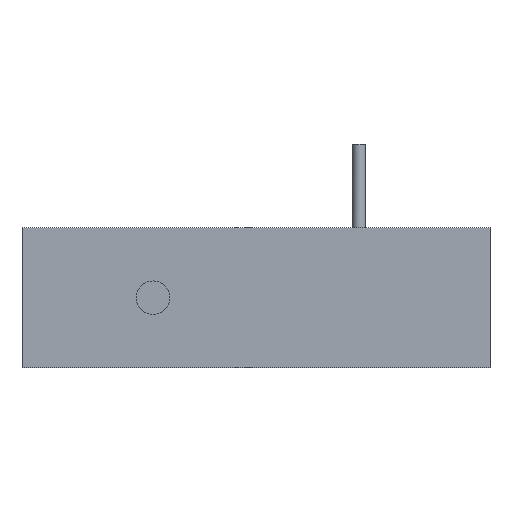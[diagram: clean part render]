
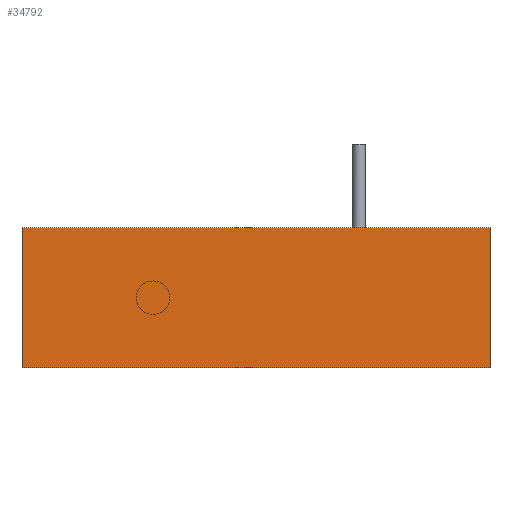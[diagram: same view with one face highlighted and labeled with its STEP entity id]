
A CAD part, front view. The second image highlights one B-rep face of the part: STEP entity #34792.
In plain terms, the highlighted planar face has unit normal (0, -1, 0).
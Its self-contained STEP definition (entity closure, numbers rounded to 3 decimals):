
#785=DIRECTION('',(0.,0.,-1.));
#786=VECTOR('',#785,75.);
#787=CARTESIAN_POINT('',(-180.,-10.,37.5));
#788=LINE('',#787,#786);
#789=DIRECTION('',(-1.,0.,0.));
#790=VECTOR('',#789,250.);
#791=CARTESIAN_POINT('',(70.,-10.,37.5));
#792=LINE('',#791,#790);
#793=DIRECTION('',(0.,0.,1.));
#794=VECTOR('',#793,75.);
#795=CARTESIAN_POINT('',(70.,-10.,-37.5));
#796=LINE('',#795,#794);
#797=DIRECTION('',(1.,0.,0.));
#798=VECTOR('',#797,250.);
#799=CARTESIAN_POINT('',(-180.,-10.,-37.5));
#800=LINE('',#799,#798);
#29985=CARTESIAN_POINT('',(-180.,-10.,-37.5));
#29986=CARTESIAN_POINT('',(70.,-10.,-37.5));
#29987=VERTEX_POINT('',#29985);
#29988=VERTEX_POINT('',#29986);
#29989=CARTESIAN_POINT('',(70.,-10.,37.5));
#29990=CARTESIAN_POINT('',(-180.,-10.,37.5));
#29991=VERTEX_POINT('',#29989);
#29992=VERTEX_POINT('',#29990);
#34778=CARTESIAN_POINT('',(-55.,-10.,0.));
#34779=DIRECTION('',(0.,-1.,0.));
#34780=DIRECTION('',(1.,0.,0.));
#34781=AXIS2_PLACEMENT_3D('',#34778,#34779,#34780);
#34782=PLANE('',#34781);
#34783=ORIENTED_EDGE('',*,*,#34768,.F.);
#34785=ORIENTED_EDGE('',*,*,#34784,.F.);
#34787=ORIENTED_EDGE('',*,*,#34786,.F.);
#34789=ORIENTED_EDGE('',*,*,#34788,.F.);
#34790=EDGE_LOOP('',(#34783,#34785,#34787,#34789));
#34791=FACE_OUTER_BOUND('',#34790,.F.);
#34792=ADVANCED_FACE('',(#34791),#34782,.T.);
#34768=EDGE_CURVE('',#29992,#29987,#788,.T.);
#34784=EDGE_CURVE('',#29991,#29992,#792,.T.);
#34786=EDGE_CURVE('',#29988,#29991,#796,.T.);
#34788=EDGE_CURVE('',#29987,#29988,#800,.T.);
